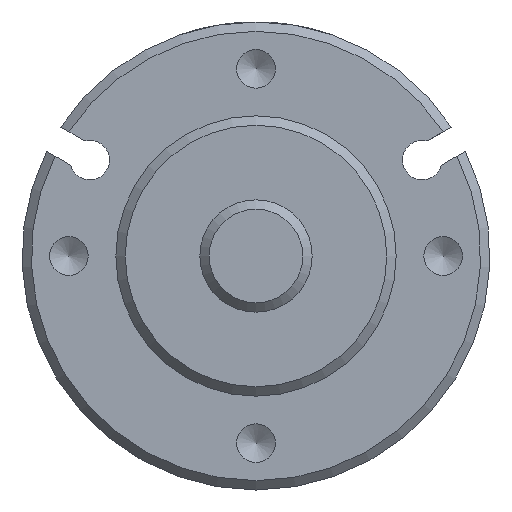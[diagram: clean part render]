
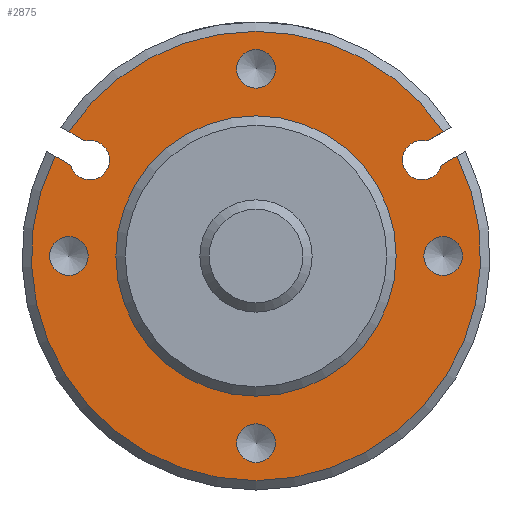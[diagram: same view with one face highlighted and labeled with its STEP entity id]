
A CAD part, front view. The second image highlights one B-rep face of the part: STEP entity #2875.
In plain terms, the highlighted planar face has unit normal (0, -1, 0).
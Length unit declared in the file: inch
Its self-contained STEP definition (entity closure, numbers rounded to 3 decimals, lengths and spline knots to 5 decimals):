
#55=LINE('',#4542,#173);
#61=LINE('',#4590,#179);
#64=LINE('',#4612,#182);
#66=LINE('',#4619,#184);
#173=VECTOR('',#3583,0.3937);
#179=VECTOR('',#3615,0.3937);
#182=VECTOR('',#3638,0.3937);
#184=VECTOR('',#3646,0.3937);
#445=FACE_BOUND('',#1068,.T.);
#446=FACE_BOUND('',#1069,.T.);
#447=FACE_BOUND('',#1070,.T.);
#448=FACE_BOUND('',#1071,.T.);
#449=FACE_BOUND('',#1072,.T.);
#567=CIRCLE('',#3185,0.58957);
#569=CIRCLE('',#3189,0.94488);
#570=CIRCLE('',#3192,0.083);
#571=CIRCLE('',#3193,0.94488);
#572=CIRCLE('',#3194,0.083);
#573=CIRCLE('',#3195,0.08138);
#574=CIRCLE('',#3196,0.08138);
#575=CIRCLE('',#3197,0.08138);
#576=CIRCLE('',#3198,0.08138);
#731=PLANE('',#3191);
#836=FACE_OUTER_BOUND('',#1067,.T.);
#1067=EDGE_LOOP('',(#2098,#2099,#2100,#2101,#2102,#2103,#2104,#2105));
#1068=EDGE_LOOP('',(#2106));
#1069=EDGE_LOOP('',(#2107));
#1070=EDGE_LOOP('',(#2108));
#1071=EDGE_LOOP('',(#2109));
#1072=EDGE_LOOP('',(#2110));
#1395=VERTEX_POINT('',#4539);
#1396=VERTEX_POINT('',#4541);
#1412=VERTEX_POINT('',#4585);
#1413=VERTEX_POINT('',#4589);
#1416=VERTEX_POINT('',#4598);
#1417=VERTEX_POINT('',#4602);
#1419=VERTEX_POINT('',#4611);
#1420=VERTEX_POINT('',#4616);
#1421=VERTEX_POINT('',#4618);
#1422=VERTEX_POINT('',#4621);
#1423=VERTEX_POINT('',#4623);
#1424=VERTEX_POINT('',#4625);
#1425=VERTEX_POINT('',#4627);
#1674=EDGE_CURVE('',#1396,#1395,#55,.T.);
#1694=EDGE_CURVE('',#1413,#1412,#61,.T.);
#1698=EDGE_CURVE('',#1416,#1416,#567,.T.);
#1701=EDGE_CURVE('',#1396,#1417,#569,.T.);
#1703=EDGE_CURVE('',#1419,#1417,#64,.T.);
#1705=EDGE_CURVE('',#1395,#1413,#570,.T.);
#1706=EDGE_CURVE('',#1420,#1412,#571,.T.);
#1707=EDGE_CURVE('',#1420,#1421,#66,.T.);
#1708=EDGE_CURVE('',#1421,#1419,#572,.T.);
#1709=EDGE_CURVE('',#1422,#1422,#573,.T.);
#1710=EDGE_CURVE('',#1423,#1423,#574,.T.);
#1711=EDGE_CURVE('',#1424,#1424,#575,.T.);
#1712=EDGE_CURVE('',#1425,#1425,#576,.T.);
#2098=ORIENTED_EDGE('',*,*,#1701,.F.);
#2099=ORIENTED_EDGE('',*,*,#1674,.T.);
#2100=ORIENTED_EDGE('',*,*,#1705,.T.);
#2101=ORIENTED_EDGE('',*,*,#1694,.T.);
#2102=ORIENTED_EDGE('',*,*,#1706,.F.);
#2103=ORIENTED_EDGE('',*,*,#1707,.T.);
#2104=ORIENTED_EDGE('',*,*,#1708,.T.);
#2105=ORIENTED_EDGE('',*,*,#1703,.T.);
#2106=ORIENTED_EDGE('',*,*,#1709,.T.);
#2107=ORIENTED_EDGE('',*,*,#1698,.T.);
#2108=ORIENTED_EDGE('',*,*,#1710,.T.);
#2109=ORIENTED_EDGE('',*,*,#1711,.T.);
#2110=ORIENTED_EDGE('',*,*,#1712,.T.);
#2875=ADVANCED_FACE('',(#836,#445,#446,#447,#448,#449),#731,.T.);
#3185=AXIS2_PLACEMENT_3D('',#4599,#3625,#3626);
#3189=AXIS2_PLACEMENT_3D('',#4608,#3633,#3634);
#3191=AXIS2_PLACEMENT_3D('',#4614,#3640,#3641);
#3192=AXIS2_PLACEMENT_3D('',#4615,#3642,#3643);
#3193=AXIS2_PLACEMENT_3D('',#4617,#3644,#3645);
#3194=AXIS2_PLACEMENT_3D('',#4620,#3647,#3648);
#3195=AXIS2_PLACEMENT_3D('',#4622,#3649,#3650);
#3196=AXIS2_PLACEMENT_3D('',#4624,#3651,#3652);
#3197=AXIS2_PLACEMENT_3D('',#4626,#3653,#3654);
#3198=AXIS2_PLACEMENT_3D('',#4628,#3655,#3656);
#3583=DIRECTION('',(0.866,0.,-0.5));
#3615=DIRECTION('',(-0.866,0.,0.5));
#3625=DIRECTION('center_axis',(0.,1.,0.));
#3626=DIRECTION('ref_axis',(0.,0.,
-1.));
#3633=DIRECTION('center_axis',(0.,1.,0.));
#3634=DIRECTION('ref_axis',(-1.,0.,0.));
#3638=DIRECTION('',(0.866,0.,0.5));
#3640=DIRECTION('center_axis',(0.,-1.,0.));
#3641=DIRECTION('ref_axis',(0.,0.,1.));
#3642=DIRECTION('center_axis',(0.,1.,0.));
#3643=DIRECTION('ref_axis',(0.5,0.,-0.866));
#3644=DIRECTION('center_axis',(0.,1.,0.));
#3645=DIRECTION('ref_axis',(-1.,0.,0.));
#3646=DIRECTION('',(-0.866,0.,-0.5));
#3647=DIRECTION('center_axis',(0.,1.,0.));
#3648=DIRECTION('ref_axis',(-1.,0.,0.));
#3649=DIRECTION('center_axis',(0.,1.,0.));
#3650=DIRECTION('ref_axis',(0.,0.,1.));
#3651=DIRECTION('center_axis',(0.,1.,0.));
#3652=DIRECTION('ref_axis',(1.,0.,0.));
#3653=DIRECTION('center_axis',(0.,1.,0.));
#3654=DIRECTION('ref_axis',(0.,0.,
-1.));
#3655=DIRECTION('center_axis',(0.,1.,0.));
#3656=DIRECTION('ref_axis',(-1.,0.,0.));
#4539=CARTESIAN_POINT('',(-0.71994,0.7874,0.48385));
#4541=CARTESIAN_POINT('',(-0.78716,0.7874,0.52266));
#4542=CARTESIAN_POINT('',(-0.68905,0.7874,0.46601));
#4585=CARTESIAN_POINT('',(-0.84622,0.7874,0.42037));
#4589=CARTESIAN_POINT('',(-0.77899,0.7874,0.38156));
#4590=CARTESIAN_POINT('',(-0.82405,0.7874,0.40757));
#4598=CARTESIAN_POINT('',(-0.58957,0.7874,0.));
#4599=CARTESIAN_POINT('Origin',(0.,0.7874,0.));
#4602=CARTESIAN_POINT('',(0.78716,0.7874,0.52266));
#4608=CARTESIAN_POINT('Origin',(0.,0.7874,0.));
#4611=CARTESIAN_POINT('',(0.71994,0.7874,0.48385));
#4612=CARTESIAN_POINT('',(0.0268,0.7874,0.08367));
#4614=CARTESIAN_POINT('Origin',(-0.98425,0.7874,0.));
#4615=CARTESIAN_POINT('Origin',(-0.69896,0.7874,0.40354));
#4616=CARTESIAN_POINT('',(0.84622,0.7874,0.42037));
#4617=CARTESIAN_POINT('Origin',(0.,0.7874,0.));
#4618=CARTESIAN_POINT('',(0.77899,0.7874,0.38156));
#4619=CARTESIAN_POINT('',(0.00991,0.7874,-0.06247));
#4620=CARTESIAN_POINT('Origin',(0.69896,0.7874,0.40354));
#4621=CARTESIAN_POINT('',(0.7874,0.7874,0.08138));
#4622=CARTESIAN_POINT('Origin',(0.7874,0.7874,0.));
#4623=CARTESIAN_POINT('',(0.08138,0.7874,-0.7874));
#4624=CARTESIAN_POINT('Origin',(0.,0.7874,-0.7874));
#4625=CARTESIAN_POINT('',(-0.7874,0.7874,-0.08138));
#4626=CARTESIAN_POINT('Origin',(-0.7874,0.7874,0.));
#4627=CARTESIAN_POINT('',(-0.08138,0.7874,0.7874));
#4628=CARTESIAN_POINT('Origin',(0.,0.7874,
0.7874));
